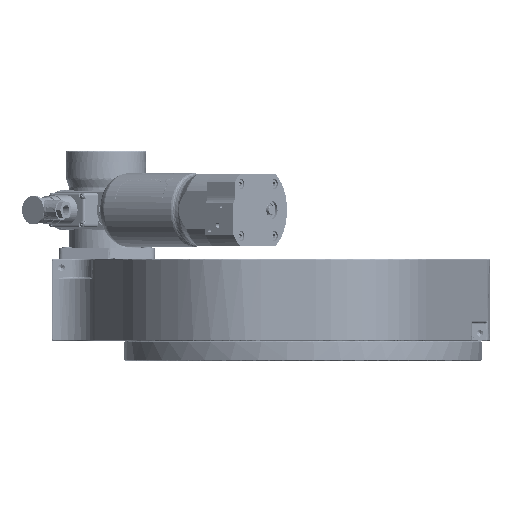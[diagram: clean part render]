
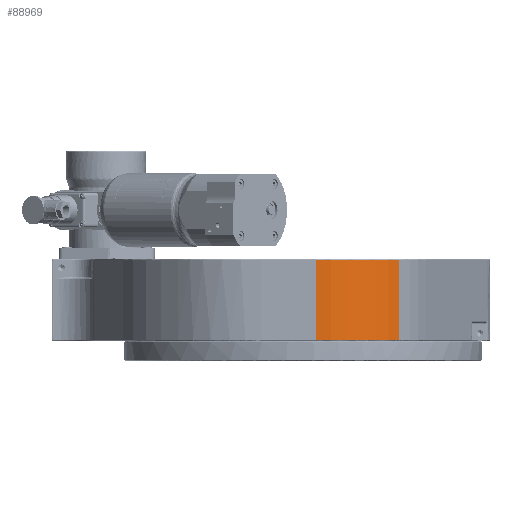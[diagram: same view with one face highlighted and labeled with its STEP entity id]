
A CAD part, front view. The second image highlights one B-rep face of the part: STEP entity #88969.
In plain terms, the highlighted free-form (B-spline) face has degree [2, 1] with [3, 2] control points.
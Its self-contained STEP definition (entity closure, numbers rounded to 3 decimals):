
#87514=CARTESIAN_POINT('V175',(33.3,
   -239.,1.5));
#87515=VERTEX_POINT('V175',#87514);
#87572=CARTESIAN_POINT('V173',(114.635,
   -203.057,1.5));
#87573=VERTEX_POINT('V173',#87572);
#87574=CARTESIAN_POINT('E279',(33.3,
   -239.,1.5));
#87575=CARTESIAN_POINT('E279',(81.909,
   -239.,1.5));
#87576=CARTESIAN_POINT('E279',(114.635,
   -203.057,1.5));
#87584=(BOUNDED_CURVE()B_SPLINE_CURVE(2,(#87574,#87575,#87576),
   .CIRCULAR_ARC.,.F.,.U.)B_SPLINE_CURVE_WITH_KNOTS((3,3),(2.0,
   40.322),.UNSPECIFIED.)CURVE()
   GEOMETRIC_REPRESENTATION_ITEM()RATIONAL_B_SPLINE_CURVE((1.0,
   0.915,1.0))REPRESENTATION_ITEM('E279'));
#87585=EDGE_CURVE('E279',#87515,#87573,#87584,.T.);
#88914=CARTESIAN_POINT('V32',(33.3,
   -239.,79.5));
#88915=VERTEX_POINT('V32',#88914);
#88921=CARTESIAN_POINT('E278',(33.3,
   -239.,1.5));
#88922=CARTESIAN_POINT('E278',(33.3,
   -239.,79.5));
#88923=B_SPLINE_CURVE_WITH_KNOTS('E278',1,(#88921,#88922),
   .POLYLINE_FORM.,.F.,.U.,(2,2),(0.028,
   1.464),.UNSPECIFIED.);
#88924=EDGE_CURVE('E278',#87515,#88915,#88923,.T.);
#88931=CARTESIAN_POINT('F106',(33.3,
   -239.,0.0));
#88932=CARTESIAN_POINT('F106',(81.909,
   -239.,0.0));
#88933=CARTESIAN_POINT('F106',(114.635,
   -203.057,0.0));
#88934=CARTESIAN_POINT('F106',(33.3,
   -239.,81.0));
#88935=CARTESIAN_POINT('F106',(81.909,
   -239.,81.));
#88936=CARTESIAN_POINT('F106',(114.635,
   -203.057,81.0));
#88944=(BOUNDED_SURFACE()B_SPLINE_SURFACE(2,1,((#88931,#88934),(
   #88932,#88935),(#88933,#88936)),.CYLINDRICAL_SURF.,.F.,.F.,.U.)
   B_SPLINE_SURFACE_WITH_KNOTS((3,3),(2,2),(0.0,
   1.2),(0.0,1.0),.UNSPECIFIED.)
   GEOMETRIC_REPRESENTATION_ITEM()RATIONAL_B_SPLINE_SURFACE(((1.0,
   1.0),(0.915,0.915),(1.0,1.0)))
   REPRESENTATION_ITEM('F106')SURFACE());
#88945=CARTESIAN_POINT('V34',(114.635,
   -203.057,79.5));
#88946=VERTEX_POINT('V34',#88945);
#88947=CARTESIAN_POINT('E47',(114.635,
   -203.057,79.5));
#88948=CARTESIAN_POINT('E47',(81.909,
   -239.,79.5));
#88949=CARTESIAN_POINT('E47',(33.3,
   -239.,79.5));
#88957=(BOUNDED_CURVE()B_SPLINE_CURVE(2,(#88947,#88948,#88949),
   .CIRCULAR_ARC.,.F.,.U.)B_SPLINE_CURVE_WITH_KNOTS((3,3),(2.0,
   40.322),.UNSPECIFIED.)CURVE()
   GEOMETRIC_REPRESENTATION_ITEM()RATIONAL_B_SPLINE_CURVE((1.0,
   0.915,1.0))REPRESENTATION_ITEM('E47'));
#88958=EDGE_CURVE('E47',#88946,#88915,#88957,.T.);
#88959=ORIENTED_EDGE('E47',*,*,#88958,.F.);
#88960=CARTESIAN_POINT('E275',(114.635,
   -203.057,1.5));
#88961=CARTESIAN_POINT('E275',(114.635,
   -203.057,79.5));
#88962=B_SPLINE_CURVE_WITH_KNOTS('E275',1,(#88960,#88961),
   .POLYLINE_FORM.,.F.,.U.,(2,2),(0.019,
   0.981),.UNSPECIFIED.);
#88963=EDGE_CURVE('E275',#87573,#88946,#88962,.T.);
#88964=ORIENTED_EDGE('E275',*,*,#88963,.F.);
#88965=ORIENTED_EDGE('E279',*,*,#87585,.F.);
#88966=ORIENTED_EDGE('E278',*,*,#88924,.T.);
#88967=EDGE_LOOP('F106',(#88959,#88964,#88965,#88966));
#88968=FACE_OUTER_BOUND('F106',#88967,.F.);
#88969=ADVANCED_FACE('F106',(#88968),#88944,.T.);
